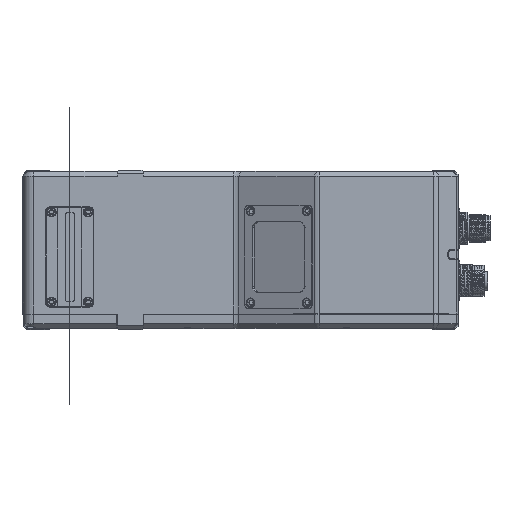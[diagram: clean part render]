
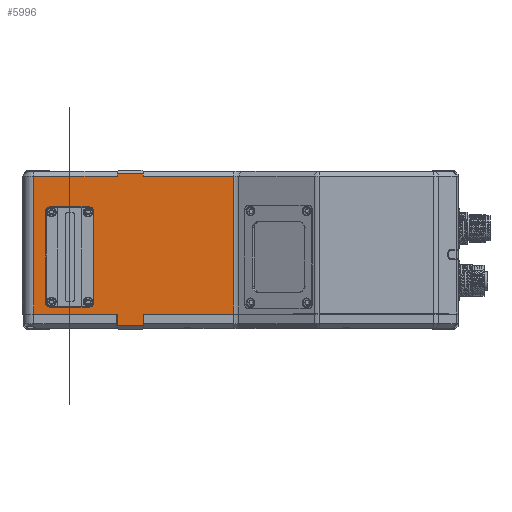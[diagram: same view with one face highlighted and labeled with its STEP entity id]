
A CAD part, top view. The second image highlights one B-rep face of the part: STEP entity #5996.
In plain terms, the highlighted planar face has unit normal (0, 0, 1).
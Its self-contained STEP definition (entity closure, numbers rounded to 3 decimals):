
#2486=DIRECTION('',(0.,1.,0.));
#2487=VECTOR('',#2486,1.);
#2488=CARTESIAN_POINT('',(39.5,64.,0.));
#2489=LINE('',#2488,#2487);
#2490=DIRECTION('',(1.,0.,0.));
#2491=VECTOR('',#2490,11.);
#2492=CARTESIAN_POINT('',(39.5,65.,0.));
#2493=LINE('',#2492,#2491);
#2494=DIRECTION('',(0.,-1.,0.));
#2495=VECTOR('',#2494,1.);
#2496=CARTESIAN_POINT('',(50.5,65.,0.));
#2497=LINE('',#2496,#2495);
#2498=DIRECTION('',(1.,0.,0.));
#2499=VECTOR('',#2498,38.028);
#2500=CARTESIAN_POINT('',(50.5,64.,0.));
#2501=LINE('',#2500,#2499);
#2502=DIRECTION('',(0.,-1.,0.));
#2503=VECTOR('',#2502,5.);
#2504=CARTESIAN_POINT('',(50.5,6.,0.));
#2505=LINE('',#2504,#2503);
#2506=DIRECTION('',(-1.,0.,0.));
#2507=VECTOR('',#2506,11.);
#2508=CARTESIAN_POINT('',(50.5,1.,0.));
#2509=LINE('',#2508,#2507);
#2510=DIRECTION('',(0.,1.,0.));
#2511=VECTOR('',#2510,5.);
#2512=CARTESIAN_POINT('',(39.5,1.,0.));
#2513=LINE('',#2512,#2511);
#2514=DIRECTION('',(1.,0.,0.));
#2515=VECTOR('',#2514,35.);
#2516=CARTESIAN_POINT('',(4.5,64.,0.));
#2517=LINE('',#2516,#2515);
#2518=DIRECTION('',(0.,1.,0.));
#2519=VECTOR('',#2518,38.2);
#2520=CARTESIAN_POINT('',(29.75,10.9,0.));
#2521=LINE('',#2520,#2519);
#2522=CARTESIAN_POINT('',(27.75,49.1,0.));
#2523=DIRECTION('',(0.,0.,1.));
#2524=DIRECTION('',(1.,0.,0.));
#2525=AXIS2_PLACEMENT_3D('',#2522,#2523,#2524);
#2527=DIRECTION('',(-1.,0.,0.));
#2528=VECTOR('',#2527,16.3);
#2529=CARTESIAN_POINT('',(27.75,51.1,0.));
#2530=LINE('',#2529,#2528);
#2531=CARTESIAN_POINT('',(11.45,49.1,0.));
#2532=DIRECTION('',(0.,0.,1.));
#2533=DIRECTION('',(0.,1.,0.));
#2534=AXIS2_PLACEMENT_3D('',#2531,#2532,#2533);
#2536=DIRECTION('',(0.,-1.,0.));
#2537=VECTOR('',#2536,38.2);
#2538=CARTESIAN_POINT('',(9.45,49.1,0.));
#2539=LINE('',#2538,#2537);
#2540=CARTESIAN_POINT('',(11.45,10.9,0.));
#2541=DIRECTION('',(0.,0.,1.));
#2542=DIRECTION('',(-1.,0.,0.));
#2543=AXIS2_PLACEMENT_3D('',#2540,#2541,#2542);
#2545=DIRECTION('',(1.,0.,0.));
#2546=VECTOR('',#2545,16.3);
#2547=CARTESIAN_POINT('',(11.45,8.9,0.));
#2548=LINE('',#2547,#2546);
#2549=CARTESIAN_POINT('',(27.75,10.9,0.));
#2550=DIRECTION('',(0.,0.,1.));
#2551=DIRECTION('',(0.,-1.,0.));
#2552=AXIS2_PLACEMENT_3D('',#2549,#2550,#2551);
#2593=DIRECTION('',(0.,1.,0.));
#2594=VECTOR('',#2593,58.);
#2595=CARTESIAN_POINT('',(88.528,6.,0.));
#2596=LINE('',#2595,#2594);
#2999=DIRECTION('',(0.,-1.,0.));
#3000=VECTOR('',#2999,58.);
#3001=CARTESIAN_POINT('',(4.5,64.,0.));
#3002=LINE('',#3001,#3000);
#3969=DIRECTION('',(1.,0.,0.));
#3970=VECTOR('',#3969,35.);
#3971=CARTESIAN_POINT('',(4.5,6.,0.));
#3972=LINE('',#3971,#3970);
#4004=DIRECTION('',(1.,0.,0.));
#4005=VECTOR('',#4004,38.028);
#4006=CARTESIAN_POINT('',(50.5,6.,0.));
#4007=LINE('',#4006,#4005);
#4930=CARTESIAN_POINT('',(11.45,8.9,0.));
#4931=CARTESIAN_POINT('',(27.75,8.9,0.));
#4932=VERTEX_POINT('',#4930);
#4933=VERTEX_POINT('',#4931);
#4934=CARTESIAN_POINT('',(29.75,10.9,0.));
#4935=CARTESIAN_POINT('',(29.75,49.1,0.));
#4936=VERTEX_POINT('',#4934);
#4937=VERTEX_POINT('',#4935);
#4938=CARTESIAN_POINT('',(27.75,51.1,0.));
#4939=CARTESIAN_POINT('',(11.45,51.1,0.));
#4940=VERTEX_POINT('',#4938);
#4941=VERTEX_POINT('',#4939);
#4942=CARTESIAN_POINT('',(9.45,49.1,0.));
#4943=CARTESIAN_POINT('',(9.45,10.9,0.));
#4944=VERTEX_POINT('',#4942);
#4945=VERTEX_POINT('',#4943);
#4978=CARTESIAN_POINT('',(50.5,6.,0.));
#4979=CARTESIAN_POINT('',(88.528,6.,0.));
#4980=VERTEX_POINT('',#4978);
#4981=VERTEX_POINT('',#4979);
#4982=CARTESIAN_POINT('',(4.5,6.,0.));
#4983=CARTESIAN_POINT('',(39.5,6.,0.));
#4984=VERTEX_POINT('',#4982);
#4985=VERTEX_POINT('',#4983);
#5211=CARTESIAN_POINT('',(4.5,64.,0.));
#5212=CARTESIAN_POINT('',(39.5,64.,0.));
#5213=VERTEX_POINT('',#5211);
#5214=VERTEX_POINT('',#5212);
#5303=CARTESIAN_POINT('',(88.528,64.,0.));
#5304=VERTEX_POINT('',#5303);
#5305=CARTESIAN_POINT('',(50.5,64.,0.));
#5306=VERTEX_POINT('',#5305);
#5483=CARTESIAN_POINT('',(50.5,1.,0.));
#5484=CARTESIAN_POINT('',(39.5,1.,0.));
#5485=VERTEX_POINT('',#5483);
#5486=VERTEX_POINT('',#5484);
#5555=CARTESIAN_POINT('',(39.5,65.,0.));
#5556=CARTESIAN_POINT('',(50.5,65.,0.));
#5557=VERTEX_POINT('',#5555);
#5558=VERTEX_POINT('',#5556);
#5947=CARTESIAN_POINT('',(0.,6.5,0.));
#5948=DIRECTION('',(0.,0.,-1.));
#5949=DIRECTION('',(1.,0.,0.));
#5950=AXIS2_PLACEMENT_3D('',#5947,#5948,#5949);
#5951=PLANE('',#5950);
#5953=ORIENTED_EDGE('',*,*,#5952,.T.);
#5955=ORIENTED_EDGE('',*,*,#5954,.T.);
#5957=ORIENTED_EDGE('',*,*,#5956,.T.);
#5959=ORIENTED_EDGE('',*,*,#5958,.T.);
#5961=ORIENTED_EDGE('',*,*,#5960,.F.);
#5963=ORIENTED_EDGE('',*,*,#5962,.F.);
#5965=ORIENTED_EDGE('',*,*,#5964,.T.);
#5967=ORIENTED_EDGE('',*,*,#5966,.T.);
#5969=ORIENTED_EDGE('',*,*,#5968,.T.);
#5971=ORIENTED_EDGE('',*,*,#5970,.F.);
#5973=ORIENTED_EDGE('',*,*,#5972,.F.);
#5975=ORIENTED_EDGE('',*,*,#5974,.T.);
#5976=EDGE_LOOP('',(#5953,#5955,#5957,#5959,#5961,#5963,#5965,#5967,#5969,#5971,
#5973,#5975));
#5977=FACE_OUTER_BOUND('',#5976,.F.);
#5979=ORIENTED_EDGE('',*,*,#5978,.T.);
#5981=ORIENTED_EDGE('',*,*,#5980,.T.);
#5983=ORIENTED_EDGE('',*,*,#5982,.T.);
#5985=ORIENTED_EDGE('',*,*,#5984,.T.);
#5987=ORIENTED_EDGE('',*,*,#5986,.T.);
#5989=ORIENTED_EDGE('',*,*,#5988,.T.);
#5991=ORIENTED_EDGE('',*,*,#5990,.T.);
#5993=ORIENTED_EDGE('',*,*,#5992,.T.);
#5994=EDGE_LOOP('',(#5979,#5981,#5983,#5985,#5987,#5989,#5991,#5993));
#5995=FACE_BOUND('',#5994,.F.);
#5996=ADVANCED_FACE('',(#5977,#5995),#5951,.F.);
#2526=CIRCLE('',#2525,2.);
#2535=CIRCLE('',#2534,2.);
#2544=CIRCLE('',#2543,2.);
#2553=CIRCLE('',#2552,2.);
#5952=EDGE_CURVE('',#5214,#5557,#2489,.T.);
#5954=EDGE_CURVE('',#5557,#5558,#2493,.T.);
#5956=EDGE_CURVE('',#5558,#5306,#2497,.T.);
#5958=EDGE_CURVE('',#5306,#5304,#2501,.T.);
#5960=EDGE_CURVE('',#4981,#5304,#2596,.T.);
#5962=EDGE_CURVE('',#4980,#4981,#4007,.T.);
#5964=EDGE_CURVE('',#4980,#5485,#2505,.T.);
#5966=EDGE_CURVE('',#5485,#5486,#2509,.T.);
#5968=EDGE_CURVE('',#5486,#4985,#2513,.T.);
#5970=EDGE_CURVE('',#4984,#4985,#3972,.T.);
#5972=EDGE_CURVE('',#5213,#4984,#3002,.T.);
#5974=EDGE_CURVE('',#5213,#5214,#2517,.T.);
#5978=EDGE_CURVE('',#4936,#4937,#2521,.T.);
#5980=EDGE_CURVE('',#4937,#4940,#2526,.T.);
#5982=EDGE_CURVE('',#4940,#4941,#2530,.T.);
#5984=EDGE_CURVE('',#4941,#4944,#2535,.T.);
#5986=EDGE_CURVE('',#4944,#4945,#2539,.T.);
#5988=EDGE_CURVE('',#4945,#4932,#2544,.T.);
#5990=EDGE_CURVE('',#4932,#4933,#2548,.T.);
#5992=EDGE_CURVE('',#4933,#4936,#2553,.T.);
